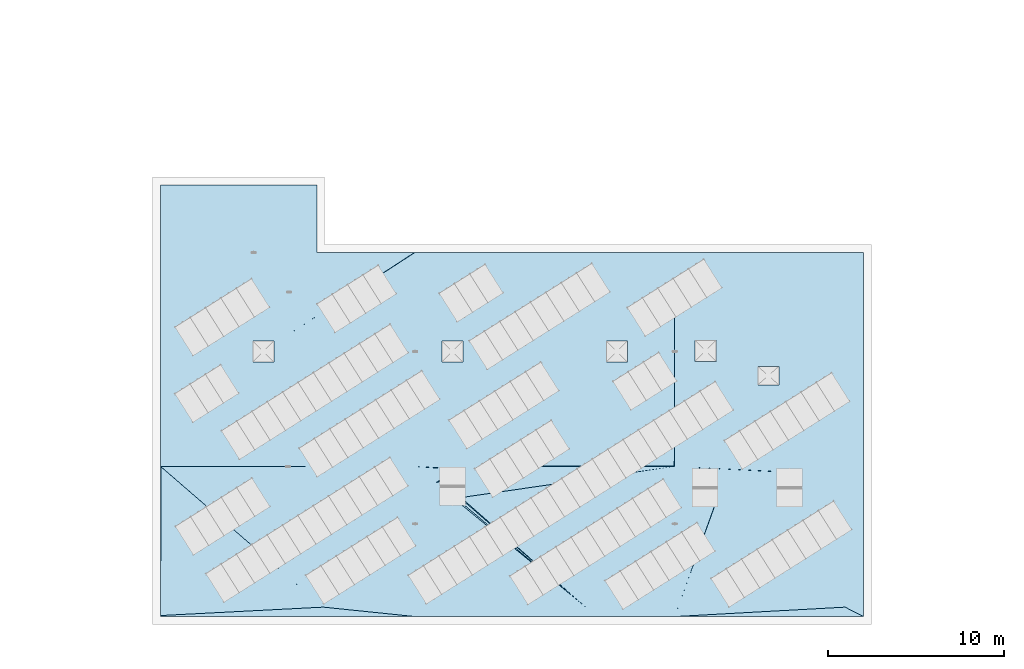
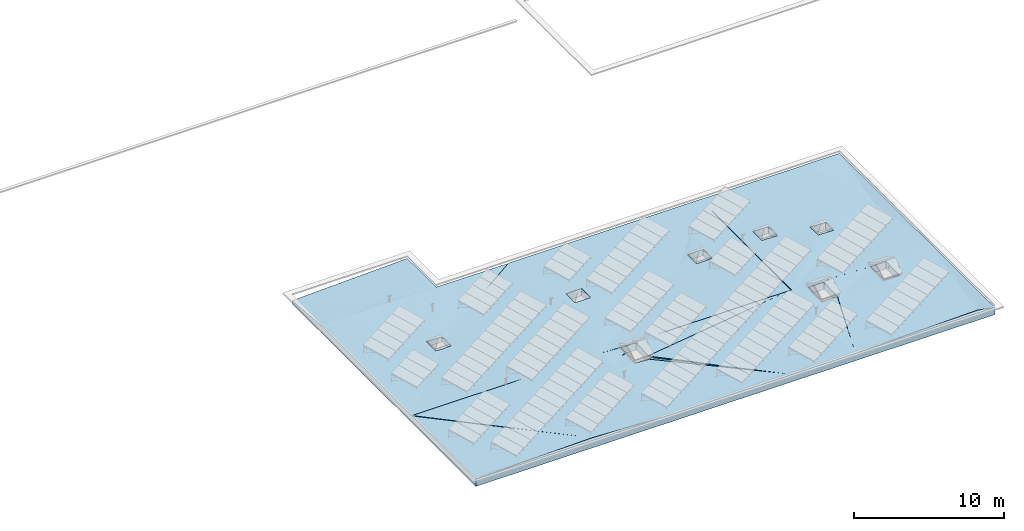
# One storey, part 5 of 9: 1 slab.
"""IFC2X3 building model written with IfcOpenShell, lengths in millimetres."""

from ifc_helpers import new_model, entity, si_unit, converted_unit, derived_unit, money_unit, direction, frame, origin_with_axes, place, context, subcontext, project, spatial, faceted_brep, material, type_object, element, save


model = new_model("IFC2X3")

# Units and contexts
model_context = context("Model", 3, precision=0.01, world=origin_with_axes(), true_north=direction((0.0, 1.0)))
body_context = subcontext(model_context, "Body", "Model", "MODEL_VIEW")
ifc_project = project(units=[si_unit("LENGTHUNIT", "METRE", prefix="MILLI"), si_unit("AREAUNIT", "SQUARE_METRE"), si_unit("VOLUMEUNIT", "CUBIC_METRE"), converted_unit("PLANEANGLEUNIT", "DEGREE", entity("IfcPlaneAngleMeasure", 0.0174532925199), si_unit("PLANEANGLEUNIT", "RADIAN"), dimensions=[0, 0, 0, 0, 0, 0, 0]), si_unit("SOLIDANGLEUNIT", "STERADIAN"), money_unit("EUR"), converted_unit("TIMEUNIT", "Year", entity("IfcTimeMeasure", 31556926.0), si_unit("TIMEUNIT", "SECOND"), dimensions=[0, 0, 1, 0, 0, 0, 0]), si_unit("MASSUNIT", "GRAM", prefix="KILO"), si_unit("THERMODYNAMICTEMPERATUREUNIT", "DEGREE_CELSIUS"), si_unit("LUMINOUSINTENSITYUNIT", "LUMEN"), si_unit("ENERGYUNIT", "JOULE", prefix="MEGA"), derived_unit("THERMALCONDUCTANCEUNIT", [(si_unit("POWERUNIT", "WATT"), 1), (si_unit("LENGTHUNIT", "METRE"), -1), (si_unit("THERMODYNAMICTEMPERATUREUNIT", "KELVIN"), -1)]), derived_unit("SPECIFICHEATCAPACITYUNIT", [(si_unit("ENERGYUNIT", "JOULE"), 1), (si_unit("MASSUNIT", "GRAM", prefix="KILO"), -1), (si_unit("THERMODYNAMICTEMPERATUREUNIT", "KELVIN"), -1)]), derived_unit("MASSDENSITYUNIT", [(si_unit("MASSUNIT", "GRAM", prefix="KILO"), 1), (si_unit("VOLUMEUNIT", "CUBIC_METRE"), -1)])], contexts=[model_context])

# Site, building, storey
site_placement = place(None, origin_with_axes())
site = spatial("IfcSite", under=ifc_project, at=site_placement, Name="KIRDE 14, ELVA", CompositionType="ELEMENT")
building_placement = place(site_placement, origin_with_axes())
building = spatial("IfcBuilding", under=site, at=building_placement, Name="PPA ja Päästeameti ühishoone", CompositionType="ELEMENT")
storey_placement = place(building_placement, frame((0.0, 0.0, 7700.0), z_axis=(0.0, 0.0, 1.0), x_axis=(1.0, 0.0, 0.0)))
storey = spatial("IfcBuildingStorey", under=building, at=storey_placement, Name="Katusekorrus", CompositionType="ELEMENT", Elevation=7700.0)

# Slab
ifc_material = material(Name="Vahtpolüstüreen (4)")
slab_type = type_object("IfcSlabType", Name="Vahtpolüstüreen (4)", PredefinedType="ROOF")
slab_placement = place(storey_placement, frame((-2.23066844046, -0.999999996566, -585.015763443), z_axis=(0.0, 0.0, 1.0), x_axis=(1.0, 0.0, 0.0)))
element("IfcSlab", 1, at=slab_placement, inside=storey, type_object=slab_type, material=ifc_material, Name="KATUSEKALDED", PredefinedType="ROOF", context=body_context, shape_type="Brep", body=[
    faceted_brep([(2.23068054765, 20611.7509669, 585.602761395), (2.23070802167, 20288.2100902, 573.605061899), (2.23070802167, 20750.591631, 573.605061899), (2.23170593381, 8553.91357187, 0.0), (2.23170593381, 8553.91357187, 563.434331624), (2.23067868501, 24600.8167313, 240.893863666), (2.23067868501, 24600.8167313, 0.0), (5252.23069172, 15701.0001335, 455.663457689), (2.23167147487, 8553.78308054, 0.0), (2.23167147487, 8553.78308054, 600.0), (5252.23069252, 14500.998791, 431.08059758), (5564.14002931, 21201.5713323, 496.990191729), (8902.2307205, 24600.8167351, 577.516210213), (8902.2307205, 24600.8167351, 0.0), (0.0, 0.0, 0.0), (8902.2307219, 20750.5916292, 0.0), (40046.9355509, 20750.5916413, 0.0), (40046.9355588, 1.86264514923e-05, 0.0), (5252.23069172, 15701.0001335, 0.0), (5252.23069252, 14500.998791, 0.0), (5750.434754, 14500.9987915, 0.0), (6453.36990936, 14500.9987922, 0.0), (6452.23079016, 15701.0001344, 0.0), (17227.5336724, 15700.9980787, 0.0), (16027.5336713, 15700.9980778, 0.0), (16027.5336732, 14500.9981186, 0.0), (17227.5336729, 14500.9981204, 0.0), (16026.9355361, 7730.6626521, 0.0), (16026.9355372, 6417.25637585, 0.0), (17226.9355372, 6417.25637585, 0.0), (17226.9355358, 8417.2563697, 0.0), (16026.9355365, 8417.25636877, 0.0), (26595.0745292, 15700.9987909, 0.0), (25395.0745295, 15700.9987909, 0.0), (25395.0745299, 14500.9987916, 0.0), (26595.0745297, 14500.9987916, 0.0), (31663.1043785, 15742.0001323, 0.0), (30453.1043438, 15742.0001333, 0.0), (30453.1043442, 14542.0001731, 0.0), (31663.1043785, 14542.0001731, 0.0), (31624.9355347, 8248.76032128, 0.0), (30424.9355345, 8248.76032035, 0.0), (30424.9355348, 7629.76953844, 0.0), (30424.9355354, 6448.76031961, 0.0), (31624.9355361, 6448.76032054, 0.0), (34027.5336244, 13201.0005634, 0.0), (35227.5336253, 13201.0005634, 0.0), (35227.5336242, 14254.9998836, 0.0), (34027.5336244, 14254.9998836, 0.0), (36426.9355605, 6448.76032333, 0.0), (36426.9355591, 8248.76032315, 0.0), (35226.9355603, 8248.76032408, 0.0), (35226.9355603, 6448.7603224, 0.0), (7237.16235068, 16039.1657007, 400.0), (0.0, 0.0, 600.0), (0.0151745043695, 58.1591101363, 578.390441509), (14502.4032579, 8550.0000054, 600.0), (5750.434754, 14500.9987915, 404.011352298), (8902.2307219, 20750.5916292, 569.953167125), (8902.23072236, 21299.9998936, 600.0), (14478.9562568, 20750.591631, 545.925125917), (14502.4032579, 20750.591631, 570.269482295), (28726.8200382, 20750.5916366, 582.960068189), (29296.403253, 20750.5916366, 582.960068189), (37209.9607433, 20750.5916404, 582.960068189), (37302.2306804, 20750.5916404, 600.0), (40046.9355509, 20750.5916413, 582.960068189), (40046.9355565, 8550.00001565, 600.0), (40046.9355588, 1.86264514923e-05, 600.0), (29296.4032614, 1.210719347e-05, 600.0), (14502.4032611, 5.58793544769e-06, 600.0), (6453.36990936, 14500.9987922, 425.62446764), (6453.06598458, 14821.1673543, 422.006319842), (6452.92780913, 14966.7278127, 419.520627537), (6452.68022807, 15227.5412682, 402.116617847), (6452.23079016, 15701.0001344, 425.793879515), (17227.5336724, 15700.9980787, 585.238153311), (16027.5336713, 15700.9980778, 583.441670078), (16027.5336732, 14500.9981186, 583.441670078), (17227.5336729, 14500.9981204, 585.238153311), (16026.9355361, 7730.6626521, 575.340315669), (16026.9355365, 7294.06246908, 531.781717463), (16026.9355372, 6417.25637585, 577.491655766), (17091.2553395, 6417.25637585, 509.378778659), (17226.9355372, 6417.25637585, 600.0), (17226.9355372, 6617.25636896, 587.222224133), (17226.9355372, 6685.64688948, 549.253165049), (17226.9355371, 6795.42656658, 513.298906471), (17226.9355367, 8206.6357401, 587.222224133), (17226.9355358, 8417.2563697, 592.480031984), (16985.0781748, 8417.25636877, 592.480031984), (16639.1622188, 8417.2563697, 600.0), (16434.6191833, 8417.2563697, 592.480031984), (16026.9355365, 8417.25636877, 592.480031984), (16026.9355361, 7816.8424093, 577.491655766), (16026.9355361, 7784.00848513, 531.781717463), (26595.0745292, 15700.9987909, 519.185720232), (25395.0745295, 15700.9987909, 483.285929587), (25395.0745299, 14500.9987916, 483.285929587), (26595.0745297, 14500.9987916, 519.185720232), (31663.1043785, 15742.0001323, 562.533659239), (30453.1043438, 15742.0001333, 597.201499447), (30453.1043442, 14542.0001731, 597.201499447), (31663.1043785, 14542.0001731, 562.533659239), (31624.9355347, 8248.76032128, 592.480031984), (30424.9355345, 8248.76032035, 592.480031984), (30424.9355348, 7629.76953844, 530.001515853), (30424.9355348, 7618.44692119, 530.390199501), (30424.9355349, 7442.77866317, 526.57359425), (30424.9355349, 7431.75460431, 526.952028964), (30424.9355354, 6448.76031961, 547.545904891), (31117.4724642, 6448.7603223, 547.545904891), (31615.7863723, 6448.76032057, 508.848970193), (31624.9355361, 6448.76032054, 547.545904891), (31624.9355361, 6450.64807032, 508.385830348), (34027.5336244, 13201.0005634, 597.201498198), (35227.5336253, 13201.0005634, 571.200618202), (35227.5336242, 14254.9998836, 571.200618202), (34027.5336244, 14254.9998836, 597.201498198), (36426.9355605, 6448.76032333, 566.771800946), (36426.93556, 7218.92356231, 566.771800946), (36426.9355591, 8248.76032315, 592.480031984), (35423.5654845, 8248.76032315, 592.480031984), (35226.9355603, 8248.76032408, 597.518060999), (35226.9355603, 6448.7603224, 597.518060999), (9265.50616805, 538.272096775, 400.0), (27.6730378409, 8529.65982455, 563.434331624), (14297.8602219, 8248.76031745, 592.480031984), (24327.9008728, 14851.520285, 400.0), (39257.2446572, 14694.1877118, 400.0), (39002.2306886, 538.27210702, 400.0), (24192.6932411, 566.962126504, 400.0), (15636.7402985, 7615.51243299, 531.781717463), (29296.4032581, 8550.00001099, 600.0), (29267.3843933, 8586.80445445, 547.545904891), (31841.9552376, 6448.76032056, 508.848970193), (31851.1044014, 6450.64807031, 508.385830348), (14502.4032588, 6448.76031671, 600.0)], [[[0, 1, 2]], [[3, 4, 1, 0, 2, 5, 6]], [[1, 7, 2]], [[8, 9, 4, 3]], [[4, 10, 1]], [[5, 2, 11]], [[6, 5, 12, 13]], [[14, 8, 3, 6, 13, 15, 16, 17], [18, 19, 20, 21, 22], [23, 24, 25, 26], [27, 28, 29, 30, 31], [32, 33, 34, 35], [36, 37, 38, 39], [40, 41, 42, 43, 44], [45, 46, 47, 48], [49, 50, 51, 52]], [[10, 7, 1]], [[7, 53, 2]], [[14, 54, 55, 9, 8]], [[9, 56, 4]], [[10, 4, 57]], [[11, 2, 58]], [[5, 11, 12]], [[13, 12, 59, 58, 15]], [[15, 58, 60, 61, 62, 63, 64, 65, 66, 16]], [[16, 66, 67, 68, 17]], [[17, 68, 69, 70, 54, 14]], [[18, 7, 10, 19]], [[19, 10, 57, 20]], [[20, 57, 71, 21]], [[21, 71, 72, 73, 74, 75, 22]], [[22, 75, 7, 18]], [[23, 76, 77, 24]], [[24, 77, 78, 25]], [[25, 78, 79, 26]], [[26, 79, 76, 23]], [[27, 80, 81, 82, 28]], [[28, 82, 83, 84, 29]], [[29, 84, 85, 86, 87, 88, 89, 30]], [[30, 89, 90, 91, 92, 93, 31]], [[31, 93, 94, 95, 80, 27]], [[32, 96, 97, 33]], [[33, 97, 98, 34]], [[34, 98, 99, 35]], [[35, 99, 96, 32]], [[36, 100, 101, 37]], [[37, 101, 102, 38]], [[38, 102, 103, 39]], [[39, 103, 100, 36]], [[40, 104, 105, 41]], [[41, 105, 106, 42]], [[42, 106, 107, 108, 109, 110, 43]], [[43, 110, 111, 112, 113, 44]], [[44, 113, 114, 104, 40]], [[45, 115, 116, 46]], [[46, 116, 117, 47]], [[47, 117, 118, 48]], [[48, 118, 115, 45]], [[49, 119, 120, 121, 50]], [[50, 121, 122, 123, 51]], [[51, 123, 124, 52]], [[52, 124, 119, 49]], [[75, 53, 7]], [[53, 58, 2]], [[55, 54, 70, 125]], [[55, 126, 9]], [[125, 127, 56, 9]], [[71, 4, 56]], [[57, 4, 71]], [[59, 11, 58]], [[59, 12, 11]], [[58, 53, 60]], [[60, 53, 61]], [[61, 128, 62]], [[62, 128, 63]], [[64, 63, 129]], [[65, 64, 129]], [[66, 65, 129]], [[67, 66, 129]], [[68, 67, 130]], [[68, 130, 69]], [[70, 69, 131]], [[72, 71, 53]], [[73, 72, 53]], [[74, 73, 53]], [[75, 74, 53]], [[77, 76, 61]], [[78, 77, 56]], [[78, 56, 79]], [[76, 79, 128]], [[80, 132, 81]], [[81, 132, 82]], [[83, 82, 70]], [[84, 83, 131]], [[84, 131, 85]], [[85, 131, 86]], [[86, 133, 87]], [[87, 133, 88]], [[88, 133, 89]], [[90, 89, 133, 56]], [[91, 90, 56]], [[92, 91, 56]], [[93, 92, 56]], [[94, 93, 132]], [[95, 94, 132]], [[80, 95, 132]], [[96, 63, 97]], [[97, 128, 98]], [[98, 134, 99]], [[99, 134, 96]], [[101, 100, 63]], [[102, 101, 133]], [[102, 133, 103]], [[115, 118, 100, 103]], [[105, 104, 133]], [[105, 133, 106]], [[106, 133, 107]], [[107, 133, 108]], [[108, 133, 109]], [[109, 133, 110]], [[111, 110, 69]], [[112, 111, 69]], [[113, 112, 69]], [[113, 135, 114]], [[104, 114, 136]], [[115, 133, 116]], [[117, 116, 129]], [[118, 117, 100]], [[119, 67, 120]], [[121, 120, 67, 133, 122]], [[123, 122, 133]], [[123, 136, 124]], [[119, 124, 130]], [[137, 56, 125, 70]], [[55, 125, 126]], [[126, 125, 9]], [[127, 125, 56]], [[71, 56, 53]], [[53, 56, 61]], [[76, 128, 61]], [[97, 63, 128]], [[117, 129, 63]], [[129, 133, 67]], [[119, 130, 67]], [[69, 130, 135]], [[131, 69, 133]], [[70, 131, 83]], [[77, 61, 56]], [[79, 56, 128]], [[82, 132, 137]], [[82, 137, 70]], [[131, 133, 86]], [[134, 56, 133]], [[56, 132, 93]], [[96, 134, 63]], [[98, 128, 134]], [[100, 117, 63]], [[101, 63, 133]], [[103, 133, 115]], [[104, 123, 133]], [[110, 133, 69]], [[113, 69, 135]], [[135, 136, 114]], [[123, 104, 136]], [[116, 133, 129]], [[124, 136, 130]], [[132, 56, 137]], [[136, 135, 130]], [[128, 56, 134]], [[133, 63, 134]]]),
])

save(model, "model.ifc")
